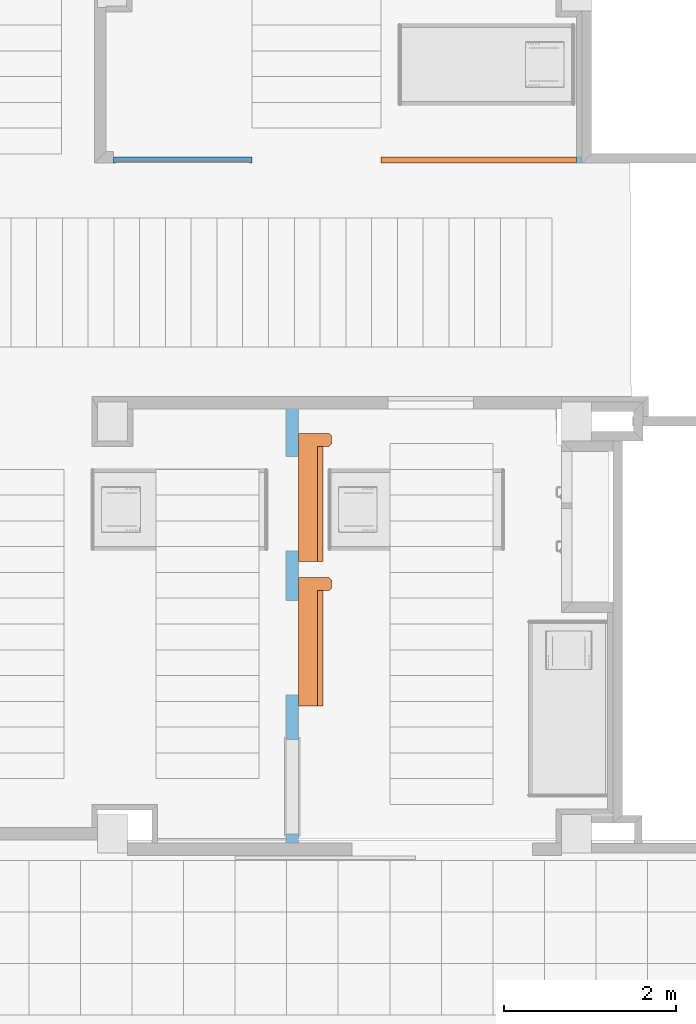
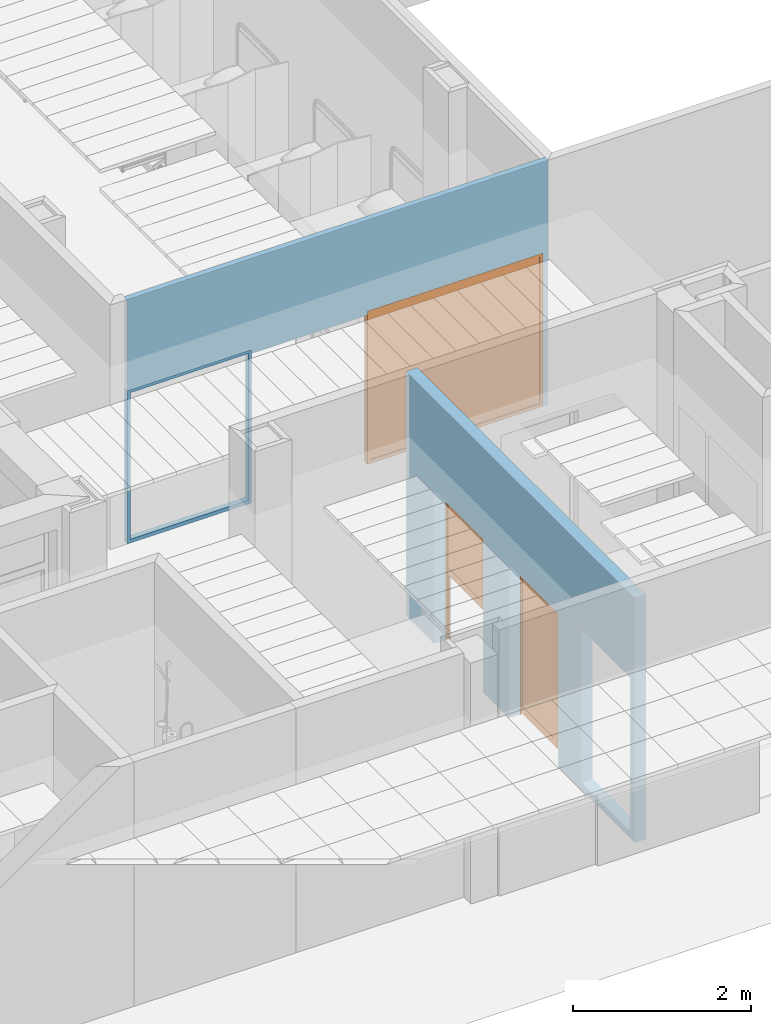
# One storey, part 54 of 68: 3 proxies, 1 building element part, 6 openings, 1 element without a shape of its own, plus 2 elements that do not belong to this part.
"""IFC2X3 building model written with IfcOpenShell, lengths in millimetres."""

from ifc_helpers import new_model, entity, si_unit, converted_unit, derived_unit, money_unit, direction, frame, origin_with_axes, origin_2d_with_axis, place, context, subcontext, project, spatial, polyline, rectangle, outline, extrude, faceted_brep, material, layer, layer_set, layer_usage, type_object, element, fill, aggregate, save


model = new_model("IFC2X3")

# Units and contexts
model_context = context("Model", 3, precision=0.01, world=origin_with_axes(), true_north=direction((0.0, 1.0)))
body_context = subcontext(model_context, "Body", "Model", "MODEL_VIEW")
ifc_project = project(units=[si_unit("LENGTHUNIT", "METRE", prefix="MILLI"), si_unit("AREAUNIT", "SQUARE_METRE"), si_unit("VOLUMEUNIT", "CUBIC_METRE"), converted_unit("PLANEANGLEUNIT", "DEGREE", entity("IfcPlaneAngleMeasure", 0.0174532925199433), si_unit("PLANEANGLEUNIT", "RADIAN"), dimensions=[0, 0, 0, 0, 0, 0, 0]), money_unit("USD"), converted_unit("TIMEUNIT", "Year", entity("IfcTimeMeasure", 31557600.0), si_unit("TIMEUNIT", "SECOND"), dimensions=[0, 0, 1, 0, 0, 0, 0]), si_unit("MASSUNIT", "GRAM", prefix="KILO"), si_unit("THERMODYNAMICTEMPERATUREUNIT", "DEGREE_CELSIUS"), si_unit("LUMINOUSINTENSITYUNIT", "LUMEN"), si_unit("ENERGYUNIT", "JOULE", prefix="MEGA"), derived_unit("THERMALCONDUCTANCEUNIT", [(si_unit("POWERUNIT", "WATT"), 1), (si_unit("LENGTHUNIT", "METRE"), -1), (si_unit("THERMODYNAMICTEMPERATUREUNIT", "KELVIN"), -1)]), derived_unit("SPECIFICHEATCAPACITYUNIT", [(si_unit("ENERGYUNIT", "JOULE"), 1), (si_unit("MASSUNIT", "GRAM", prefix="KILO"), -1), (si_unit("THERMODYNAMICTEMPERATUREUNIT", "KELVIN"), -1)]), derived_unit("MASSDENSITYUNIT", [(si_unit("MASSUNIT", "GRAM", prefix="KILO"), 1), (si_unit("VOLUMEUNIT", "CUBIC_METRE"), -1)])], contexts=[model_context])

# Site, building, storey
site_placement = place(None, origin_with_axes())
site = spatial("IfcSite", under=ifc_project, at=site_placement, Name="Sitio", CompositionType="ELEMENT")
building_placement = place(site_placement, origin_with_axes())
building = spatial("IfcBuilding", under=site, at=building_placement, Name="Construcción", CompositionType="ELEMENT")
storey_placement = place(building_placement, origin_with_axes())
storey = spatial("IfcBuildingStorey", under=building, at=storey_placement, Name="PLANTA 1ª", CompositionType="ELEMENT", Elevation=0.0)

# Wall, openings, proxy
ifc_material_1 = material(Name="Panel de Yeso Laminado")
ifc_layer_1 = layer(ifc_material_1, 5.0, ventilated="UNKNOWN")
ifc_material_2 = material(Name="ARQ_AI033_Aillament_Llana_De_Roca")
ifc_layer_2 = layer(ifc_material_2, 60.0, ventilated="UNKNOWN")
ifc_layer_3 = layer(ifc_material_1, 5.0, ventilated="UNKNOWN")
ifc_layer_set_1 = layer_set([ifc_layer_1, ifc_layer_2, ifc_layer_3], Name="CR- MAMPARA")
ifc_layer_usage_1 = layer_usage(ifc_layer_set_1, "AXIS2", "POSITIVE", -70.0)
wall_type_1 = type_object("IfcWallType", Name="CR- MAMPARA 70", PredefinedType="NOTDEFINED")
wall_1_placement = place(storey_placement, frame((616.8275262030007, -9137.420994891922, 0.0), z_axis=(0.0, 0.0, 1.0), x_axis=(1.0, 0.0, 0.0)))
wall_1 = element("IfcWallStandardCase", 1, at=wall_1_placement, inside=storey, type_object=wall_type_1, material=ifc_layer_usage_1, Name="MS-212", context=body_context, shape_type="SweptSolid", body=[
    extrude(outline(polyline([(0.0, -70.00000000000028), (5452.063468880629, -70.00000000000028), (5452.063468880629, 0.0), (0.0, 0.0), (0.0, -70.00000000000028)])), origin_with_axes(), (0.0, 0.0, 1.0), 3350.0),
])
opening_1_placement = place(wall_1_placement, frame((805.000864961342, 0.0, 0.0), z_axis=(0.0, 0.0, 1.0), x_axis=(1.0, 0.0, 0.0)))
opening_1 = element("IfcOpeningElement", 2, at=opening_1_placement, cuts=wall_1, Name="M-10", context=body_context, shape_type="SweptSolid", body=[
    extrude(rectangle(XDim=1610.001729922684, YDim=2100.0, at=origin_2d_with_axis()), frame((0.0, 70.00000000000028, 1050.0), z_axis=(0.0, -1.0, 0.0), x_axis=(-1.0, 0.0, 0.0)), (0.0, 0.0, 1.0), 210.0),
])
opening_2_placement = place(wall_1_placement, frame((4248.532599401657, 0.0, 0.0), z_axis=(0.0, 0.0, 1.0), x_axis=(1.0, 0.0, 0.0)))
opening_2 = element("IfcOpeningElement", 3, at=opening_2_placement, cuts=wall_1, Name="M-11", context=body_context, shape_type="SweptSolid", body=[
    extrude(rectangle(XDim=2277.061738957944, YDim=2100.0, at=origin_2d_with_axis()), frame((0.0, 70.00000000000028, 1050.0), z_axis=(0.0, -1.0, 0.0), x_axis=(-1.0, 0.0, 0.0)), (0.0, 0.0, 1.0), 210.0),
])
opening_3_placement = place(wall_1_placement, frame((2360.001729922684, 0.0, 0.0), z_axis=(0.0, 0.0, 1.0), x_axis=(1.0, 0.0, 0.0)))
element("IfcOpeningElement", 4, at=opening_3_placement, cuts=wall_1, Name="PF-19D", context=body_context, shape_type="SweptSolid", body=[
    extrude(rectangle(XDim=1500.0, YDim=2050.0, at=origin_2d_with_axis()), frame((0.0, 70.00000000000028, 1025.0), z_axis=(0.0, 1.0, 0.0), x_axis=(-1.0, 0.0, 0.0)), (0.0, 0.0, -1.0), 210.0),
])
building_element_proxy_type_1 = type_object("IfcBuildingElementProxyType", Name="Ventana Escaparate 27", PredefinedType="NOTDEFINED")
proxy_1_placement = place(opening_2_placement, frame((1138.530869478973, 0.0, 0.0), z_axis=(0.0, 0.0, 1.0), x_axis=(-1.0, 0.0, 0.0)))
proxy_1 = element("IfcBuildingElementProxy", 5, at=proxy_1_placement, inside=storey, type_object=building_element_proxy_type_1, Name="M-11", context=body_context, shape_type="Brep", body=[
    faceted_brep([(0.0, 70.00000000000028, 2060.0), (0.0, 70.00000000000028, 50.0), (0.0, 0.0, 49.99999999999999), (0.0, 0.0, 2060.0), (40.00000000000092, 70.00000000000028, 2060.0), (40.00000000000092, 70.00000000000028, 50.0), (40.00000000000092, 0.0, 49.99999999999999), (40.00000000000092, 0.0, 2060.0)], [[[0, 1, 2, 3]], [[0, 4, 5, 1]], [[1, 5, 6, 2]], [[3, 2, 6, 7]], [[4, 0, 3, 7]], [[5, 4, 7, 6]]]),
    faceted_brep([(2277.061738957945, 70.00000000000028, 50.0), (2277.061738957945, 70.00000000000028, 2060.0), (2277.061738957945, 0.0, 2060.0), (2277.061738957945, 0.0, 49.99999999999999), (2237.061738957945, 70.00000000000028, 50.0), (2237.061738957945, 70.00000000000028, 2060.0), (2237.061738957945, 0.0, 2060.0), (2237.061738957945, 0.0, 49.99999999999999)], [[[0, 1, 2, 3]], [[0, 4, 5, 1]], [[1, 5, 6, 2]], [[3, 2, 6, 7]], [[4, 0, 3, 7]], [[5, 4, 7, 6]]]),
    faceted_brep([(2277.061738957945, 70.00000000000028, 2100.0), (0.0, 70.00000000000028, 2100.0), (0.0, 0.0, 2100.0), (2277.061738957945, 0.0, 2100.0), (2277.061738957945, 70.00000000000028, 2060.0), (2237.061738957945, 70.00000000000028, 2060.0), (40.00000000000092, 70.00000000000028, 2060.0), (0.0, 70.00000000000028, 2060.0), (0.0, 0.0, 2060.0), (40.00000000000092, 0.0, 2060.0), (2237.061738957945, 0.0, 2060.0), (2277.061738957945, 0.0, 2060.0)], [[[0, 1, 2, 3]], [[0, 4, 5, 6, 7, 1]], [[1, 7, 8, 2]], [[3, 2, 8, 9, 10, 11]], [[4, 0, 3, 11]], [[5, 4, 11, 10]], [[6, 5, 10, 9]], [[7, 6, 9, 8]]]),
    faceted_brep([(2277.061738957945, 70.00000000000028, 50.0), (2237.061738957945, 70.00000000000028, 50.0), (2237.061738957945, 0.0, 49.99999999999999), (2277.061738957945, 0.0, 49.99999999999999), (2277.061738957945, 70.00000000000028, 0.0), (0.0, 70.00000000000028, 0.0), (0.0, 70.00000000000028, 50.0), (40.00000000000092, 70.00000000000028, 50.0), (40.00000000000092, 0.0, 49.99999999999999), (0.0, 0.0, 49.99999999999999), (0.0, 0.0, 0.0), (2277.061738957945, 0.0, 0.0)], [[[0, 1, 2, 3]], [[0, 4, 5, 6, 7, 1]], [[1, 7, 8, 2]], [[3, 2, 8, 9, 10, 11]], [[4, 0, 3, 11]], [[5, 4, 11, 10]], [[6, 5, 10, 9]], [[7, 6, 9, 8]]]),
    faceted_brep([(40.00000000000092, 60.0000000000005, 50.0), (2237.061738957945, 60.0000000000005, 50.0), (2237.061738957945, 50.00000000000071, 50.0), (40.00000000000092, 50.00000000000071, 50.0), (40.00000000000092, 60.0000000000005, 2060.0), (2237.061738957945, 60.0000000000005, 2060.0), (2237.061738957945, 50.00000000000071, 2060.0), (40.00000000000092, 50.00000000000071, 2060.0)], [[[0, 1, 2, 3]], [[0, 4, 5, 1]], [[1, 5, 6, 2]], [[3, 2, 6, 7]], [[4, 0, 3, 7]], [[5, 4, 7, 6]]]),
])
fill(opening_2, proxy_1)

# Wall, openings, proxies
ifc_material_3 = material(Name="ARQ_FU093_Panellat_HPL")
ifc_layer_4 = layer(ifc_material_3, 6.0, ventilated="UNKNOWN")
ifc_material_4 = material(Name="ARQ_EN271_Camara_Aire")
ifc_layer_5 = layer(ifc_material_4, 6.0, ventilated="UNKNOWN")
ifc_layer_6 = layer(ifc_material_1, 13.0, ventilated="UNKNOWN")
ifc_layer_7 = layer(ifc_material_1, 13.0, ventilated="UNKNOWN")
ifc_layer_8 = layer(ifc_material_2, 70.0, ventilated="UNKNOWN")
ifc_layer_9 = layer(ifc_material_1, 13.0, ventilated="UNKNOWN")
ifc_layer_10 = layer(ifc_material_1, 13.0, ventilated="UNKNOWN")
ifc_layer_11 = layer(ifc_material_4, 6.0, ventilated="UNKNOWN")
ifc_layer_12 = layer(ifc_material_3, 6.0, ventilated="UNKNOWN")
ifc_layer_set_2 = layer_set([ifc_layer_4, ifc_layer_5, ifc_layer_6, ifc_layer_7, ifc_layer_8, ifc_layer_9, ifc_layer_10, ifc_layer_11, ifc_layer_12], Name="CR Pladur 70 HPL 2 cares")
ifc_layer_usage_2 = layer_usage(ifc_layer_set_2, "AXIS2", "POSITIVE", -146.0)
wall_type_2 = type_object("IfcWallType", Name="CR Pladur 70 HPL 2 cares 146", PredefinedType="NOTDEFINED")
wall_2_placement = place(storey_placement, frame((2622.912972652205, -17264.97565901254, 0.0), z_axis=(0.0, 0.0, 1.0), x_axis=(0.0, 1.0, 0.0)))
wall_2 = element("IfcWallStandardCase", 6, at=wall_2_placement, inside=storey, type_object=wall_type_2, material=ifc_layer_usage_2, Name="MS-212", context=body_context, shape_type="SweptSolid", body=[
    extrude(outline(polyline([(146.0000000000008, -145.9999999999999), (5276.0, -145.9999999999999), (5276.0, 0.0), (146.0000000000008, 0.0), (146.0000000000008, -145.9999999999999)])), origin_with_axes(), (0.0, 0.0, 1.0), 3350.0),
])
opening_4_placement = place(wall_2_placement, frame((4095.834562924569, 0.0, 0.0), z_axis=(0.0, 0.0, 1.0), x_axis=(1.0, 0.0, 0.0)))
opening_4 = element("IfcOpeningElement", 7, at=opening_4_placement, cuts=wall_2, Name="P- Transfer", context=body_context, shape_type="SweptSolid", body=[
    extrude(rectangle(XDim=1100.000000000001, YDim=2100.0, at=origin_2d_with_axis()), frame((0.0, -145.9999999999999, 1050.0), z_axis=(0.0, -1.0, 0.0), x_axis=(1.0, 0.0, 0.0)), (0.0, 0.0, -1.0), 438.0000000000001),
])
opening_5_placement = place(wall_2_placement, frame((2418.715045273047, 0.0, 0.0), z_axis=(0.0, 0.0, 1.0), x_axis=(1.0, 0.0, 0.0)))
opening_5 = element("IfcOpeningElement", 8, at=opening_5_placement, cuts=wall_2, Name="P- Transfer", context=body_context, shape_type="SweptSolid", body=[
    extrude(rectangle(XDim=1100.000000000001, YDim=2100.0, at=origin_2d_with_axis()), frame((0.0, -145.9999999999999, 1050.0), z_axis=(0.0, -1.0, 0.0), x_axis=(1.0, 0.0, 0.0)), (0.0, 0.0, -1.0), 438.0000000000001),
])
opening_6_placement = place(wall_2_placement, frame((797.4995115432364, 0.0, 100.0), z_axis=(0.0, 0.0, 1.0), x_axis=(1.0, 0.0, 0.0)))
element("IfcOpeningElement", 9, at=opening_6_placement, cuts=wall_2, Name="P-03", context=body_context, shape_type="SweptSolid", body=[
    extrude(rectangle(XDim=1100.000000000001, YDim=2100.0, at=origin_2d_with_axis()), frame((0.0, -145.9999999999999, 1050.0), z_axis=(0.0, -1.0, 0.0), x_axis=(-1.0, 0.0, 0.0)), (0.0, 0.0, -1.0), 438.0000000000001),
    extrude(rectangle(XDim=1143.999999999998, YDim=2122.0, at=origin_2d_with_axis()), frame((0.0, -145.9999999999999, 1061.0), z_axis=(0.0, -1.0, 0.0), x_axis=(-1.0, 0.0, 0.0)), (0.0, 0.0, 1.0), 146.0),
    extrude(rectangle(XDim=1143.999999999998, YDim=2122.0, at=origin_2d_with_axis()), frame((0.0, 0.0, 1061.0), z_axis=(0.0, 1.0, 0.0), x_axis=(-1.0, 0.0, 0.0)), (0.0, 0.0, 1.0), 146.0),
])
building_element_proxy_type_2 = type_object("IfcBuildingElementProxyType", Name="Puerta Rápida Enrrollable 27", PredefinedType="NOTDEFINED")
proxy_2_placement = place(opening_4_placement, frame((550.0000000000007, 0.0, 0.0), z_axis=(0.0, 0.0, 1.0), x_axis=(-1.0, 0.0, 0.0)))
proxy_2 = element("IfcBuildingElementProxy", 10, at=proxy_2_placement, inside=storey, type_object=building_element_proxy_type_2, Name="P- Transfer", context=body_context, shape_type="Brep", body=[
    faceted_brep([(10.00000000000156, 165.9999999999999, 0.0), (5.000000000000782, 165.9999999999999, 0.0), (5.000000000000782, 165.9999999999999, 2090.0), (10.00000000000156, 165.9999999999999, 2090.0), (10.00000000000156, 146.0000000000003, 0.0), (-114.9999999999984, 146.0000000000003, 0.0), (-114.9999999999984, 206.0, 0.0), (10.00000000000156, 206.0, 0.0), (10.00000000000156, 185.9999999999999, 0.0), (5.000000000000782, 185.9999999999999, 0.0), (5.000000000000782, 201.0000000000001, 0.0), (-109.9999999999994, 201.0000000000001, 0.0), (-109.9999999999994, 151.0000000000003, 0.0), (5.000000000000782, 151.0000000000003, 0.0), (5.000000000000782, 151.0000000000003, 2090.0), (-109.9999999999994, 151.0000000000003, 2090.0), (-109.9999999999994, 201.0000000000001, 2090.0), (5.000000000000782, 201.0000000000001, 2090.0), (5.000000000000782, 185.9999999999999, 2090.0), (10.00000000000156, 185.9999999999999, 2090.0), (10.00000000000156, 206.0, 2090.0), (-114.9999999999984, 206.0, 2090.0), (-114.9999999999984, 146.0000000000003, 2090.0), (10.00000000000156, 146.0000000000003, 2090.0)], [[[0, 1, 2, 3]], [[0, 4, 5, 6, 7, 8, 9, 10, 11, 12, 13, 1]], [[1, 13, 14, 2]], [[3, 2, 14, 15, 16, 17, 18, 19, 20, 21, 22, 23]], [[4, 0, 3, 23]], [[5, 4, 23, 22]], [[6, 5, 22, 21]], [[7, 6, 21, 20]], [[8, 7, 20, 19]], [[9, 8, 19, 18]], [[10, 9, 18, 17]], [[11, 10, 17, 16]], [[12, 11, 16, 15]], [[13, 12, 15, 14]]]),
    faceted_brep([(1090.0, 166.0000000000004, 0.0), (1090.0, 166.0000000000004, 2090.0), (1095.000000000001, 166.0000000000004, 2090.0), (1095.000000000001, 166.0000000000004, 0.0), (1090.0, 146.0000000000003, 0.0), (1090.0, 146.0000000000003, 2090.0), (1215.0, 146.0000000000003, 2090.0), (1215.0, 206.0000000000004, 2090.0), (1090.0, 206.0000000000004, 2090.0), (1090.0, 186.0000000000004, 2090.0), (1095.000000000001, 186.0000000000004, 2090.0), (1095.000000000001, 201.0000000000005, 2090.0), (1210.000000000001, 201.0000000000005, 2090.0), (1210.000000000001, 151.0000000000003, 2090.0), (1095.000000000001, 151.0000000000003, 2090.0), (1095.000000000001, 151.0000000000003, 0.0), (1210.000000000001, 151.0000000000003, 0.0), (1210.000000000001, 201.0000000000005, 0.0), (1095.000000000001, 201.0000000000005, 0.0), (1095.000000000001, 186.0000000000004, 0.0), (1090.0, 186.0000000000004, 0.0), (1090.0, 206.0000000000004, 0.0), (1215.0, 206.0000000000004, 0.0), (1215.0, 146.0000000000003, 0.0)], [[[0, 1, 2, 3]], [[4, 5, 1, 0]], [[1, 5, 6, 7, 8, 9, 10, 11, 12, 13, 14, 2]], [[3, 2, 14, 15]], [[0, 3, 15, 16, 17, 18, 19, 20, 21, 22, 23, 4]], [[23, 6, 5, 4]], [[22, 7, 6, 23]], [[21, 8, 7, 22]], [[20, 9, 8, 21]], [[19, 10, 9, 20]], [[18, 11, 10, 19]], [[17, 12, 11, 18]], [[16, 13, 12, 17]], [[15, 14, 13, 16]]]),
    faceted_brep([(1227.0, 146.0000000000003, 2410.0), (1227.0, 367.0000000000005, 2410.0), (-114.9999999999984, 367.0000000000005, 2410.0), (-114.9999999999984, 146.0000000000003, 2410.0), (1227.0, 146.0000000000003, 2090.0), (1227.0, 367.0000000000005, 2090.0), (1227.0, 431.0000000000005, 2154.0), (1227.0, 431.0000000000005, 2346.0), (-114.9999999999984, 431.0000000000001, 2346.0), (-114.9999999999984, 431.0000000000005, 2154.0), (-114.9999999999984, 367.0000000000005, 2090.0), (-114.9999999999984, 146.0000000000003, 2090.0)], [[[0, 1, 2, 3]], [[0, 4, 5, 6, 7, 1]], [[1, 7, 8, 2]], [[3, 2, 8, 9, 10, 11]], [[4, 0, 3, 11]], [[5, 4, 11, 10]], [[6, 5, 10, 9]], [[7, 6, 9, 8]]]),
    faceted_brep([(-114.9999999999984, 146.0000000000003, 1650.0), (-114.9999999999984, 500.9999999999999, 1650.0), (-114.9999999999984, 501.0000000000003, 2410.0), (-114.9999999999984, 146.0000000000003, 2410.0), (-264.9999999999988, 146.0000000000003, 1650.0), (-264.9999999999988, 500.9999999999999, 1650.0), (-234.9999999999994, 531.0000000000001, 1650.0), (-144.9999999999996, 531.0000000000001, 1650.0), (-144.9999999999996, 531.0000000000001, 2410.0), (-234.9999999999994, 531.0000000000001, 2410.0), (-264.9999999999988, 501.0000000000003, 2410.0), (-264.9999999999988, 146.0000000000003, 2410.0)], [[[0, 1, 2, 3]], [[0, 4, 5, 6, 7, 1]], [[1, 7, 8, 2]], [[3, 2, 8, 9, 10, 11]], [[4, 0, 3, 11]], [[5, 4, 11, 10]], [[6, 5, 10, 9]], [[7, 6, 9, 8]]]),
    faceted_brep([(1090.0, 176.0000000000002, 890.4857986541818), (1090.0, 171.0000000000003, 890.4857986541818), (10.00000000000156, 171.0000000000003, 890.4857986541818), (10.00000000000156, 176.0000000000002, 890.4857986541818), (1090.0, 176.0000000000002, 990.4857986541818), (1090.0, 171.0000000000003, 990.4857986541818), (10.00000000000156, 171.0000000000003, 990.4857986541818), (10.00000000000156, 176.0000000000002, 990.4857986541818)], [[[0, 1, 2, 3]], [[0, 4, 5, 1]], [[1, 5, 6, 2]], [[3, 2, 6, 7]], [[4, 0, 3, 7]], [[5, 4, 7, 6]]]),
    faceted_brep([(1090.0, 176.0000000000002, 990.4857986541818), (1090.0, 175.0000000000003, 990.4857986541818), (10.00000000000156, 175.0000000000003, 990.4857986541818), (10.00000000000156, 176.0000000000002, 990.4857986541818), (1090.0, 176.0000000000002, 2090.0), (1090.0, 175.0000000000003, 2090.0), (10.00000000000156, 175.0000000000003, 2090.0), (10.00000000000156, 176.0000000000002, 2090.0)], [[[0, 1, 2, 3]], [[0, 4, 5, 1]], [[1, 5, 6, 2]], [[3, 2, 6, 7]], [[4, 0, 3, 7]], [[5, 4, 7, 6]]]),
    faceted_brep([(1090.0, 175.0000000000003, 990.4857986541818), (1090.0, 174.0000000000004, 990.4857986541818), (10.00000000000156, 173.9999999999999, 990.4857986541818), (10.00000000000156, 175.0000000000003, 990.4857986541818), (1090.0, 175.0000000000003, 2090.0), (1090.0, 174.0000000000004, 2090.0), (10.00000000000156, 173.9999999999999, 2090.0), (10.00000000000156, 175.0000000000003, 2090.0)], [[[0, 1, 2, 3]], [[0, 4, 5, 1]], [[1, 5, 6, 2]], [[3, 2, 6, 7]], [[4, 0, 3, 7]], [[5, 4, 7, 6]]]),
])
fill(opening_4, proxy_2)
proxy_3_placement = place(opening_5_placement, frame((550.0000000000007, 0.0, 0.0), z_axis=(0.0, 0.0, 1.0), x_axis=(-1.0, 0.0, 0.0)))
proxy_3 = element("IfcBuildingElementProxy", 11, at=proxy_3_placement, inside=storey, type_object=building_element_proxy_type_2, Name="P- Transfer", context=body_context, shape_type="Brep", body=[
    faceted_brep([(10.00000000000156, 165.9999999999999, 0.0), (5.000000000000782, 165.9999999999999, 0.0), (5.000000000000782, 165.9999999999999, 2090.0), (10.00000000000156, 165.9999999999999, 2090.0), (10.00000000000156, 145.9999999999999, 0.0), (-114.9999999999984, 145.9999999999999, 0.0), (-114.9999999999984, 206.0, 0.0), (10.00000000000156, 206.0, 0.0), (10.00000000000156, 185.9999999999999, 0.0), (5.000000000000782, 185.9999999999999, 0.0), (5.000000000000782, 201.0000000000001, 0.0), (-109.9999999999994, 201.0000000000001, 0.0), (-109.9999999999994, 151.0000000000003, 0.0), (5.000000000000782, 151.0000000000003, 0.0), (5.000000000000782, 151.0000000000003, 2090.0), (-109.9999999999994, 151.0000000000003, 2090.0), (-109.9999999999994, 201.0000000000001, 2090.0), (5.000000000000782, 201.0000000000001, 2090.0), (5.000000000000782, 185.9999999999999, 2090.0), (10.00000000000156, 185.9999999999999, 2090.0), (10.00000000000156, 206.0, 2090.0), (-114.9999999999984, 206.0, 2090.0), (-114.9999999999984, 145.9999999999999, 2090.0), (10.00000000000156, 145.9999999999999, 2090.0)], [[[0, 1, 2, 3]], [[0, 4, 5, 6, 7, 8, 9, 10, 11, 12, 13, 1]], [[1, 13, 14, 2]], [[3, 2, 14, 15, 16, 17, 18, 19, 20, 21, 22, 23]], [[4, 0, 3, 23]], [[5, 4, 23, 22]], [[6, 5, 22, 21]], [[7, 6, 21, 20]], [[8, 7, 20, 19]], [[9, 8, 19, 18]], [[10, 9, 18, 17]], [[11, 10, 17, 16]], [[12, 11, 16, 15]], [[13, 12, 15, 14]]]),
    faceted_brep([(1090.0, 165.9999999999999, 0.0), (1090.0, 165.9999999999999, 2090.0), (1095.000000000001, 165.9999999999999, 2090.0), (1095.000000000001, 165.9999999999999, 0.0), (1090.0, 145.9999999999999, 0.0), (1090.0, 145.9999999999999, 2090.0), (1215.0, 145.9999999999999, 2090.0), (1215.0, 206.0, 2090.0), (1090.0, 206.0, 2090.0), (1090.0, 185.9999999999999, 2090.0), (1095.000000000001, 185.9999999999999, 2090.0), (1095.000000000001, 201.0000000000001, 2090.0), (1210.000000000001, 201.0000000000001, 2090.0), (1210.000000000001, 150.9999999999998, 2090.0), (1095.000000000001, 150.9999999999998, 2090.0), (1095.000000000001, 150.9999999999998, 0.0), (1210.000000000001, 150.9999999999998, 0.0), (1210.000000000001, 201.0000000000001, 0.0), (1095.000000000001, 201.0000000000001, 0.0), (1095.000000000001, 185.9999999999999, 0.0), (1090.0, 185.9999999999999, 0.0), (1090.0, 206.0, 0.0), (1215.0, 206.0, 0.0), (1215.0, 145.9999999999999, 0.0)], [[[0, 1, 2, 3]], [[4, 5, 1, 0]], [[1, 5, 6, 7, 8, 9, 10, 11, 12, 13, 14, 2]], [[3, 2, 14, 15]], [[0, 3, 15, 16, 17, 18, 19, 20, 21, 22, 23, 4]], [[23, 6, 5, 4]], [[22, 7, 6, 23]], [[21, 8, 7, 22]], [[20, 9, 8, 21]], [[19, 10, 9, 20]], [[18, 11, 10, 19]], [[17, 12, 11, 18]], [[16, 13, 12, 17]], [[15, 14, 13, 16]]]),
    faceted_brep([(1227.0, 145.9999999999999, 2410.0), (1227.0, 367.0, 2410.0), (-114.9999999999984, 367.0, 2410.0), (-114.9999999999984, 146.0000000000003, 2410.0), (1227.0, 145.9999999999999, 2090.0), (1227.0, 367.0, 2090.0), (1227.0, 431.0000000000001, 2154.0), (1227.0, 431.0000000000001, 2346.0), (-114.9999999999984, 431.0000000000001, 2346.0), (-114.9999999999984, 431.0000000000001, 2154.0), (-114.9999999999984, 367.0000000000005, 2090.0), (-114.9999999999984, 146.0000000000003, 2090.0)], [[[0, 1, 2, 3]], [[0, 4, 5, 6, 7, 1]], [[1, 7, 8, 2]], [[3, 2, 8, 9, 10, 11]], [[4, 0, 3, 11]], [[5, 4, 11, 10]], [[6, 5, 10, 9]], [[7, 6, 9, 8]]]),
    faceted_brep([(-114.9999999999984, 145.9999999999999, 1650.0), (-114.9999999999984, 501.0000000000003, 1650.0), (-114.9999999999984, 501.0000000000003, 2410.0), (-114.9999999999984, 145.9999999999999, 2410.0), (-264.9999999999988, 146.0000000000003, 1650.0), (-264.9999999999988, 501.0000000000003, 1650.0), (-234.9999999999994, 531.0000000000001, 1650.0), (-144.9999999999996, 531.0000000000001, 1650.0), (-144.9999999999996, 531.0000000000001, 2410.0), (-234.9999999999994, 531.0000000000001, 2410.0), (-264.9999999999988, 501.0000000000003, 2410.0), (-264.9999999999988, 146.0000000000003, 2410.0)], [[[0, 1, 2, 3]], [[0, 4, 5, 6, 7, 1]], [[1, 7, 8, 2]], [[3, 2, 8, 9, 10, 11]], [[4, 0, 3, 11]], [[5, 4, 11, 10]], [[6, 5, 10, 9]], [[7, 6, 9, 8]]]),
    faceted_brep([(1090.0, 175.9999999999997, 0.0), (1090.0, 170.9999999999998, 0.0), (10.00000000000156, 171.0000000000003, 0.0), (10.00000000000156, 176.0000000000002, 0.0), (1090.0, 175.9999999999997, 100.0), (1090.0, 170.9999999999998, 100.0), (10.00000000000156, 171.0000000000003, 100.0), (10.00000000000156, 176.0000000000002, 100.0)], [[[0, 1, 2, 3]], [[0, 4, 5, 1]], [[1, 5, 6, 2]], [[3, 2, 6, 7]], [[4, 0, 3, 7]], [[5, 4, 7, 6]]]),
    faceted_brep([(1090.0, 175.9999999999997, 100.0), (1090.0, 174.9999999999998, 100.0), (10.00000000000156, 175.0000000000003, 100.0), (10.00000000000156, 176.0000000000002, 100.0), (1090.0, 175.9999999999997, 2090.0), (1090.0, 174.9999999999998, 2090.0), (10.00000000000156, 174.9999999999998, 2090.0), (10.00000000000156, 176.0000000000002, 2090.0)], [[[0, 1, 2, 3]], [[0, 4, 5, 1]], [[1, 5, 6, 2]], [[3, 2, 6, 7]], [[4, 0, 3, 7]], [[5, 4, 7, 6]]]),
    faceted_brep([(1090.0, 174.9999999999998, 100.0), (1090.0, 173.9999999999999, 100.0), (10.00000000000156, 174.0000000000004, 100.0), (10.00000000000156, 175.0000000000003, 100.0), (1090.0, 174.9999999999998, 2090.0), (1090.0, 173.9999999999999, 2090.0), (10.00000000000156, 173.9999999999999, 2090.0), (10.00000000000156, 174.9999999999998, 2090.0)], [[[0, 1, 2, 3]], [[0, 4, 5, 1]], [[1, 5, 6, 2]], [[3, 2, 6, 7]], [[4, 0, 3, 7]], [[5, 4, 7, 6]]]),
])
fill(opening_5, proxy_3)

# Proxy
proxy_4_placement = place(opening_1_placement, frame((805.0008649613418, 0.0, 0.0), z_axis=(0.0, 0.0, 1.0), x_axis=(-1.0, 0.0, 0.0)))
proxy_4 = element("IfcBuildingElementProxy", 12, at=proxy_4_placement, inside=storey, type_object=building_element_proxy_type_1, Name="M-10")

fill(opening_1, proxy_4)

# Building element part
building_element_part_placement = place(proxy_4_placement, origin_with_axes())
building_element_part = element("IfcBuildingElementPart", 13, at=building_element_part_placement, context=body_context, shape_type="Brep", body=[
    faceted_brep([(0.0, 70.00000000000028, 2060.0), (0.0, 70.00000000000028, 50.0), (0.0, 0.0, 49.99999999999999), (0.0, 0.0, 2060.0), (40.00000000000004, 70.00000000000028, 2060.0), (40.00000000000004, 70.00000000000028, 50.0), (40.00000000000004, 0.0, 49.99999999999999), (40.00000000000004, 0.0, 2060.0)], [[[0, 1, 2, 3]], [[0, 4, 5, 1]], [[1, 5, 6, 2]], [[3, 2, 6, 7]], [[4, 0, 3, 7]], [[5, 4, 7, 6]]]),
    faceted_brep([(1610.001729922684, 70.00000000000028, 50.0), (1610.001729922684, 70.00000000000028, 2060.0), (1610.001729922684, 0.0, 2060.0), (1610.001729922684, 0.0, 49.99999999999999), (1570.001729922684, 70.00000000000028, 50.0), (1570.001729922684, 70.00000000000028, 2060.0), (1570.001729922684, 0.0, 2060.0), (1570.001729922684, 0.0, 49.99999999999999)], [[[0, 1, 2, 3]], [[0, 4, 5, 1]], [[1, 5, 6, 2]], [[3, 2, 6, 7]], [[4, 0, 3, 7]], [[5, 4, 7, 6]]]),
    faceted_brep([(1610.001729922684, 70.00000000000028, 2100.0), (0.0, 70.00000000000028, 2100.0), (0.0, 0.0, 2100.0), (1610.001729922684, 0.0, 2100.0), (1610.001729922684, 70.00000000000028, 2060.0), (1570.001729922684, 70.00000000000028, 2060.0), (40.00000000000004, 70.00000000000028, 2060.0), (0.0, 70.00000000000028, 2060.0), (0.0, 0.0, 2060.0), (40.00000000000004, 0.0, 2060.0), (1570.001729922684, 0.0, 2060.0), (1610.001729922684, 0.0, 2060.0)], [[[0, 1, 2, 3]], [[0, 4, 5, 6, 7, 1]], [[1, 7, 8, 2]], [[3, 2, 8, 9, 10, 11]], [[4, 0, 3, 11]], [[5, 4, 11, 10]], [[6, 5, 10, 9]], [[7, 6, 9, 8]]]),
    faceted_brep([(1610.001729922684, 70.00000000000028, 50.0), (1570.001729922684, 70.00000000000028, 50.0), (1570.001729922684, 0.0, 49.99999999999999), (1610.001729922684, 0.0, 49.99999999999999), (1610.001729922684, 70.00000000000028, 0.0), (0.0, 70.00000000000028, 0.0), (0.0, 70.00000000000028, 50.0), (40.00000000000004, 70.00000000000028, 50.0), (40.00000000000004, 0.0, 49.99999999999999), (0.0, 0.0, 49.99999999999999), (0.0, 0.0, 0.0), (1610.001729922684, 0.0, 0.0)], [[[0, 1, 2, 3]], [[0, 4, 5, 6, 7, 1]], [[1, 7, 8, 2]], [[3, 2, 8, 9, 10, 11]], [[4, 0, 3, 11]], [[5, 4, 11, 10]], [[6, 5, 10, 9]], [[7, 6, 9, 8]]]),
])

aggregate(proxy_4, [building_element_part])

save(model, "model.ifc")
